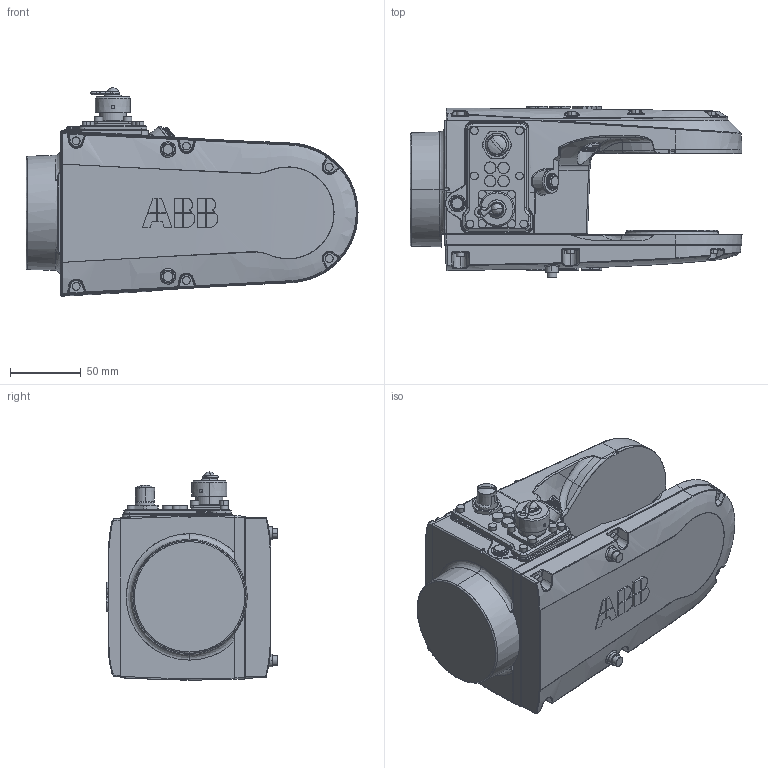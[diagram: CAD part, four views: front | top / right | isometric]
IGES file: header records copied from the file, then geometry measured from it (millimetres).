
Start section: SolidWorks IGES file using analytic representation for surfaces
Global section: file name: C:\Users\CNSHAN\Desktop\IRB1200H Light Weight Model\IRB1200H_7-70_IRC5_rev0_joints\IRB1200H_7-705-90_IRC5_Link4_rev0.igs; native system: SolidWorks 2020; preprocessor: SolidWorks 2020; author: CNSHAN; date: 220117.163528; units: millimetre
Bounding box: 234.98 x 121.5 x 147.44 mm (x, y, z)
Surface area: 128536.5 mm2 (no closed solid volume)
Topology: 0 solids, 0 shells, 1132 faces, 13096 edges, 13078 vertices
Faces by surface type: bspline 762, revolution 370
